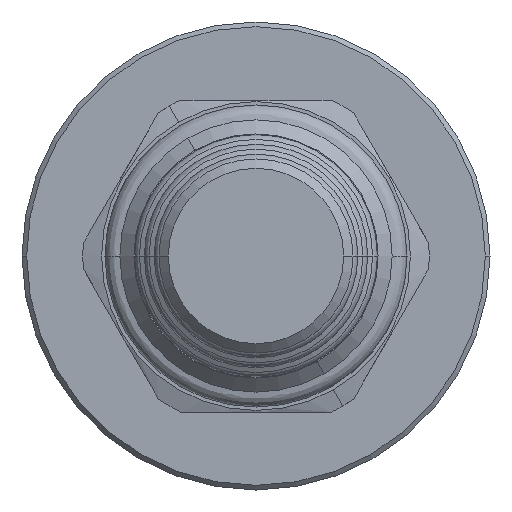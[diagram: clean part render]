
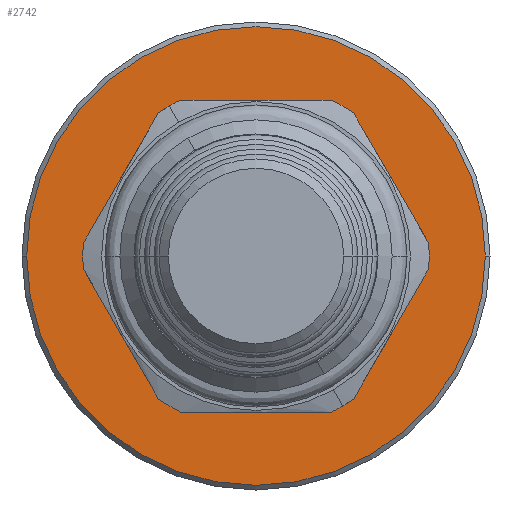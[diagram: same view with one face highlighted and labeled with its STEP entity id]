
A CAD part, front view. The second image highlights one B-rep face of the part: STEP entity #2742.
In plain terms, the highlighted planar face has unit normal (0, -1, 0).
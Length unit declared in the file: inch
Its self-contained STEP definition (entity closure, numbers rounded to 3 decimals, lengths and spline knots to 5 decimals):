
#1=CARTESIAN_POINT('',(0.,2.12054,0.));
#2=DIRECTION('',(0.,-1.,0.));
#3=DIRECTION('',(-1.,0.,0.));
#4=AXIS2_PLACEMENT_3D('',#1,#2,#3);
#6=CARTESIAN_POINT('',(0.,2.12054,0.));
#7=DIRECTION('',(0.,-1.,0.));
#8=DIRECTION('',(1.,0.,0.));
#9=AXIS2_PLACEMENT_3D('',#6,#7,#8);
#11=CARTESIAN_POINT('',(0.,2.12054,0.));
#12=DIRECTION('',(0.,-1.,0.));
#13=DIRECTION('',(-1.,0.,0.));
#14=AXIS2_PLACEMENT_3D('',#11,#12,#13);
#29=CARTESIAN_POINT('',(0.,2.12054,0.));
#30=DIRECTION('',(0.,-1.,0.));
#31=DIRECTION('',(1.,0.,0.));
#32=AXIS2_PLACEMENT_3D('',#29,#30,#31);
#2617=CARTESIAN_POINT('',(-0.375,2.12054,0.));
#2618=CARTESIAN_POINT('',(0.375,2.12054,0.));
#2619=VERTEX_POINT('',#2617);
#2620=VERTEX_POINT('',#2618);
#2621=CARTESIAN_POINT('',(0.735,2.12054,0.));
#2622=CARTESIAN_POINT('',(-0.735,2.12054,0.));
#2623=VERTEX_POINT('',#2621);
#2624=VERTEX_POINT('',#2622);
#2725=CARTESIAN_POINT('',(0.,2.12054,0.));
#2726=DIRECTION('',(0.,-1.,0.));
#2727=DIRECTION('',(-1.,0.,0.));
#2728=AXIS2_PLACEMENT_3D('',#2725,#2726,#2727);
#2729=PLANE('',#2728);
#2731=ORIENTED_EDGE('',*,*,#2730,.F.);
#2733=ORIENTED_EDGE('',*,*,#2732,.F.);
#2734=EDGE_LOOP('',(#2731,#2733));
#2735=FACE_OUTER_BOUND('',#2734,.F.);
#2737=ORIENTED_EDGE('',*,*,#2736,.T.);
#2739=ORIENTED_EDGE('',*,*,#2738,.T.);
#2740=EDGE_LOOP('',(#2737,#2739));
#2741=FACE_BOUND('',#2740,.F.);
#2742=ADVANCED_FACE('',(#2735,#2741),#2729,.T.);
#5=CIRCLE('',#4,0.375);
#10=CIRCLE('',#9,0.375);
#15=CIRCLE('',#14,0.735);
#33=CIRCLE('',#32,0.735);
#2730=EDGE_CURVE('',#2624,#2623,#15,.T.);
#2732=EDGE_CURVE('',#2623,#2624,#33,.T.);
#2736=EDGE_CURVE('',#2619,#2620,#5,.T.);
#2738=EDGE_CURVE('',#2620,#2619,#10,.T.);
